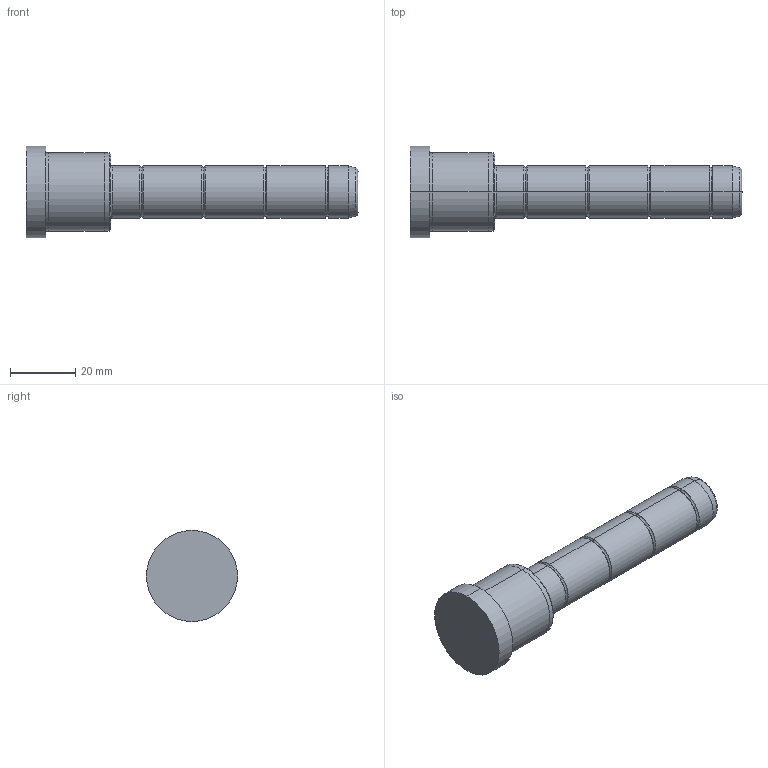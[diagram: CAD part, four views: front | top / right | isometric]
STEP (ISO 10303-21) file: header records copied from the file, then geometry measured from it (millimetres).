
FILE_DESCRIPTION( ( 'STEP AP203' ), '1' );
FILE_NAME( 'D:/Delta 3 D/D02/16/D02 - 16x26x76.step', '2003-01-04T13:15:26', ( ' ' ), ( ' ' ), 'XStep 1.0', ' ', ' ' );
FILE_SCHEMA( ( 'CONFIG_CONTROL_DESIGN' ) );
Length unit declared in the file: metre
Products named in the file (1): 1
Bounding box: 102 x 28 x 28 mm (x, y, z)
Volume: 27888.8 mm3; surface area: 7107.7 mm2
Topology: 1 solids, 1 shells, 48 faces, 94 edges, 52 vertices
Faces by surface type: bspline 26, revolution 22
Entity records: 1523 total; most frequent: CARTESIAN_POINT 617, ORIENTED_EDGE 188, DIRECTION 150, EDGE_CURVE 94, AXIS2_PLACEMENT_3D 53, EDGE_LOOP 52, VERTEX_POINT 52, CIRCLE 52
